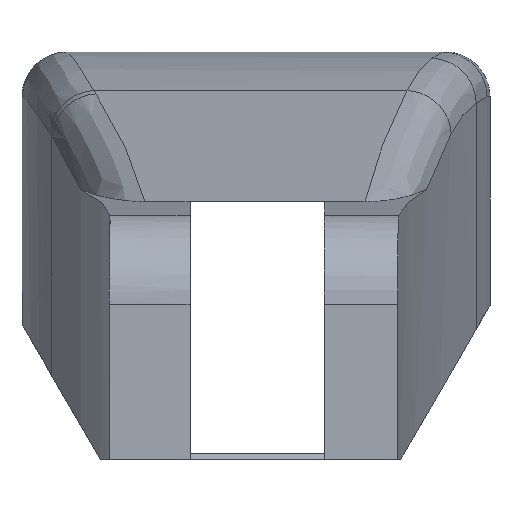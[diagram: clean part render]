
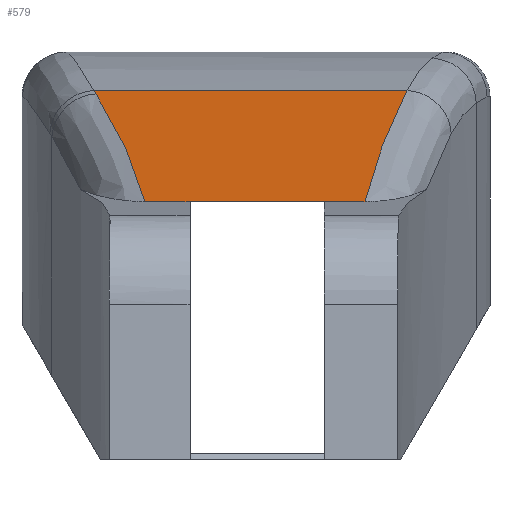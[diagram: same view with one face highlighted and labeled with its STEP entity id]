
A CAD part, front view. The second image highlights one B-rep face of the part: STEP entity #579.
In plain terms, the highlighted planar face has unit normal (0, -0.29, 0.957).
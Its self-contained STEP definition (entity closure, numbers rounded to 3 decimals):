
#51 = LINE ( 'NONE', #284, #1122 ) ;
#52 = CARTESIAN_POINT ( 'NONE',  ( 164.127, -172.175, -4.501 ) ) ;
#76 = ORIENTED_EDGE ( 'NONE', *, *, #952, .F. ) ;
#98 = VERTEX_POINT ( 'NONE', #228 ) ;
#117 = CARTESIAN_POINT ( 'NONE',  ( 10.901, -175.262, -5.437 ) ) ;
#156 = DIRECTION ( 'NONE',  ( 0., -0.29, 0.957 ) ) ;
#158 = CARTESIAN_POINT ( 'NONE',  ( 10.901, -175.262, -5.437 ) ) ;
#172 = CARTESIAN_POINT ( 'NONE',  ( 11.991, -183.193, -7.84 ) ) ;
#177 = EDGE_CURVE ( 'NONE', #98, #322, #471, .T. ) ;
#178 = DIRECTION ( 'NONE',  ( 1., 0., 0. ) ) ;
#228 = CARTESIAN_POINT ( 'NONE',  ( 17.842, -175.012, -5.361 ) ) ;
#231 = CARTESIAN_POINT ( 'NONE',  ( 11.991, -183.193, -7.84 ) ) ;
#232 = ORIENTED_EDGE ( 'NONE', *, *, #812, .F. ) ;
#238 = CARTESIAN_POINT ( 'NONE',  ( 17.419, -177.725, -6.183 ) ) ;
#249 = CARTESIAN_POINT ( 'NONE',  ( 10.869, -175.095, -5.386 ) ) ;
#269 = CARTESIAN_POINT ( 'NONE',  ( 10.885, -175.179, -5.411 ) ) ;
#284 = CARTESIAN_POINT ( 'NONE',  ( 164.127, -183.193, -7.84 ) ) ;
#294 = EDGE_LOOP ( 'NONE', ( #232, #505, #411, #1051, #303, #625, #76 ) ) ;
#303 = ORIENTED_EDGE ( 'NONE', *, *, #177, .F. ) ;
#322 = VERTEX_POINT ( 'NONE', #933 ) ;
#329 = EDGE_CURVE ( 'NONE', #593, #1098, #51, .T. ) ;
#388 = VERTEX_POINT ( 'NONE', #1168 ) ;
#411 = ORIENTED_EDGE ( 'NONE', *, *, #329, .F. ) ;
#430 = VECTOR ( 'NONE', #178, 1000. ) ;
#454 = VECTOR ( 'NONE', #1159, 1000. ) ;
#471 =( BOUNDED_CURVE ( )  B_SPLINE_CURVE ( 3, ( #907, #238, #1087, #634 ),
 .UNSPECIFIED., .F., .T. ) 
 B_SPLINE_CURVE_WITH_KNOTS ( ( 4, 4 ),
 ( 4.558, 4.639 ),
 .UNSPECIFIED. ) 
 CURVE ( )  GEOMETRIC_REPRESENTATION_ITEM ( )  RATIONAL_B_SPLINE_CURVE ( ( 1., 0.999, 0.999, 1. ) ) 
 REPRESENTATION_ITEM ( '' )  );
#473 = CARTESIAN_POINT ( 'NONE',  ( 10.901, -175.262, -5.437 ) ) ;
#477 = VERTEX_POINT ( 'NONE', #172 ) ;
#479 = LINE ( 'NONE', #774, #454 ) ;
#481 = EDGE_CURVE ( 'NONE', #322, #593, #768, .T. ) ;
#484 = DIRECTION ( 'NONE',  ( -1., 0., 0. ) ) ;
#487 = EDGE_CURVE ( 'NONE', #388, #98, #1226, .T. ) ;
#505 = ORIENTED_EDGE ( 'NONE', *, *, #555, .F. ) ;
#534 = DIRECTION ( 'NONE',  ( 0., 0.957, 0.29 ) ) ;
#549 = VECTOR ( 'NONE', #484, 1000. ) ;
#555 = EDGE_CURVE ( 'NONE', #1098, #477, #479, .T. ) ;
#556 = CARTESIAN_POINT ( 'NONE',  ( 164.127, -183.193, -7.84 ) ) ;
#579 = ADVANCED_FACE ( 'NONE', ( #750 ), #934, .T. ) ;
#593 = VERTEX_POINT ( 'NONE', #646 ) ;
#625 = ORIENTED_EDGE ( 'NONE', *, *, #487, .F. ) ;
#634 = CARTESIAN_POINT ( 'NONE',  ( 16.905, -183.193, -7.84 ) ) ;
#646 = CARTESIAN_POINT ( 'NONE',  ( 16., -183.193, -7.84 ) ) ;
#674 = DIRECTION ( 'NONE',  ( -1., 0., 0. ) ) ;
#750 = FACE_OUTER_BOUND ( 'NONE', #294, .T. ) ;
#751 = CARTESIAN_POINT ( 'NONE',  ( 10.853, -175.012, -5.361 ) ) ;
#754 = AXIS2_PLACEMENT_3D ( 'NONE', #52, #156, #534 ) ;
#761 =( BOUNDED_CURVE ( )  B_SPLINE_CURVE ( 3, ( #231, #1113, #1014, #117 ),
 .UNSPECIFIED., .F., .T. ) 
 B_SPLINE_CURVE_WITH_KNOTS ( ( 4, 4 ),
 ( 1.65, 1.764 ),
 .UNSPECIFIED. ) 
 CURVE ( )  GEOMETRIC_REPRESENTATION_ITEM ( )  RATIONAL_B_SPLINE_CURVE ( ( 1., 0.999, 0.999, 1. ) ) 
 REPRESENTATION_ITEM ( '' )  );
#768 = LINE ( 'NONE', #556, #549 ) ;
#774 = CARTESIAN_POINT ( 'NONE',  ( 164.127, -183.193, -7.84 ) ) ;
#812 = EDGE_CURVE ( 'NONE', #477, #969, #761, .T. ) ;
#870 = CARTESIAN_POINT ( 'NONE',  ( 164.127, -175.012, -5.361 ) ) ;
#907 = CARTESIAN_POINT ( 'NONE',  ( 17.842, -175.012, -5.361 ) ) ;
#933 = CARTESIAN_POINT ( 'NONE',  ( 16.905, -183.193, -7.84 ) ) ;
#934 = PLANE ( 'NONE',  #754 ) ;
#952 = EDGE_CURVE ( 'NONE', #969, #388, #973, .T. ) ;
#969 = VERTEX_POINT ( 'NONE', #158 ) ;
#973 =( BOUNDED_CURVE ( )  B_SPLINE_CURVE ( 3, ( #473, #269, #249, #751 ),
 .UNSPECIFIED., .F., .T. ) 
 B_SPLINE_CURVE_WITH_KNOTS ( ( 4, 4 ),
 ( 1.377, 1.385 ),
 .UNSPECIFIED. ) 
 CURVE ( )  GEOMETRIC_REPRESENTATION_ITEM ( )  RATIONAL_B_SPLINE_CURVE ( ( 1., 1., 1., 1. ) ) 
 REPRESENTATION_ITEM ( '' )  );
#1014 = CARTESIAN_POINT ( 'NONE',  ( 11.415, -177.884, -6.231 ) ) ;
#1051 = ORIENTED_EDGE ( 'NONE', *, *, #481, .F. ) ;
#1071 = CARTESIAN_POINT ( 'NONE',  ( 13., -183.193, -7.84 ) ) ;
#1087 = CARTESIAN_POINT ( 'NONE',  ( 17.106, -180.454, -7.01 ) ) ;
#1098 = VERTEX_POINT ( 'NONE', #1071 ) ;
#1113 = CARTESIAN_POINT ( 'NONE',  ( 11.778, -180.53, -7.033 ) ) ;
#1122 = VECTOR ( 'NONE', #674, 1000. ) ;
#1159 = DIRECTION ( 'NONE',  ( -1., 0., 0. ) ) ;
#1168 = CARTESIAN_POINT ( 'NONE',  ( 10.853, -175.012, -5.361 ) ) ;
#1226 = LINE ( 'NONE', #870, #430 ) ;
